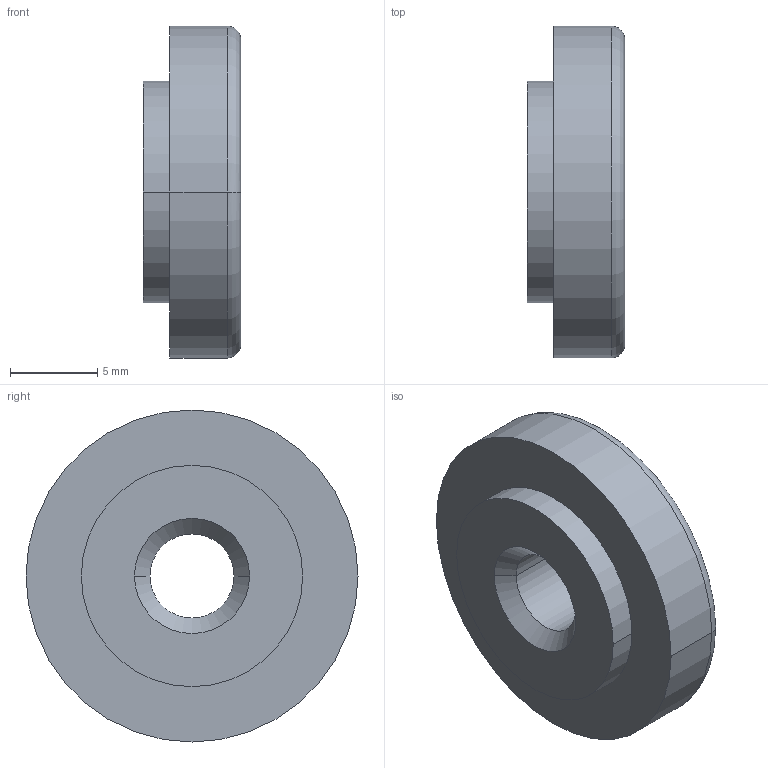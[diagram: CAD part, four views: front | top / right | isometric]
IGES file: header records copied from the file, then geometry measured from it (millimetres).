
Start section:  PTC IGES file: t103cn.igs
Global section: file name: t103cn.igs; native system: Pro/ENGINEER by Parametric Technology Corporation; preprocessor: 2002350; author: chant; organization: Unknown; date: 070703.093435; units: inch
Bounding box: 5.59 x 19.05 x 19.05 mm (x, y, z)
Surface area: 888.6 mm2 (no closed solid volume)
Topology: 0 solids, 0 shells, 15 faces, 81 edges, 93 vertices
Faces by surface type: revolution 12, bspline 3
